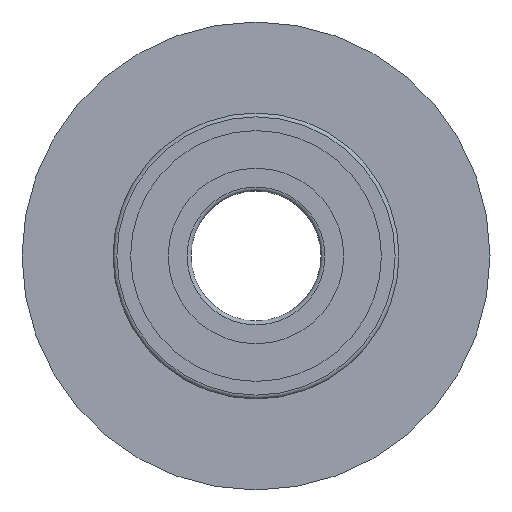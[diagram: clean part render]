
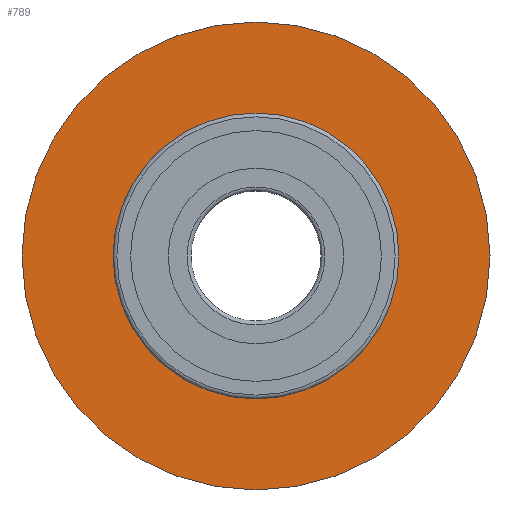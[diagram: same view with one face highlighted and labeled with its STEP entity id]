
A CAD part, left-side view. The second image highlights one B-rep face of the part: STEP entity #789.
In plain terms, the highlighted planar face has unit normal (-1, 0, 0).
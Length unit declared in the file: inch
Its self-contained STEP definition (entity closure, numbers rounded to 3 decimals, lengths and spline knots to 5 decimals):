
#762=CARTESIAN_POINT('',(112.91139,121.47152,0.));
#763=VERTEX_POINT('',#762);
#764=CARTESIAN_POINT('',(112.91139,112.47152,0.));
#765=DIRECTION('',(1.,0.,0.));
#766=DIRECTION('',(0.,1.,0.));
#767=AXIS2_PLACEMENT_3D('',#764,#765,#766);
#768=CIRCLE('',#767,9.);
#769=EDGE_CURVE('',#763,#763,#768,.T.);
#770=ORIENTED_EDGE('',*,*,#769,.F.);
#771=EDGE_LOOP('',(#770));
#772=FACE_OUTER_BOUND('',#771,.T.);
#773=CARTESIAN_POINT('',(112.91139,117.97152,0.));
#774=VERTEX_POINT('',#773);
#775=CARTESIAN_POINT('',(112.91139,112.47152,0.));
#776=DIRECTION('',(1.,0.,0.));
#777=DIRECTION('',(0.,1.,0.));
#778=AXIS2_PLACEMENT_3D('',#775,#776,#777);
#779=CIRCLE('',#778,5.5);
#780=EDGE_CURVE('',#774,#774,#779,.T.);
#781=ORIENTED_EDGE('',*,*,#780,.T.);
#782=EDGE_LOOP('',(#781));
#783=FACE_BOUND('',#782,.T.);
#784=CARTESIAN_POINT('',(112.91139,119.72152,0.));
#785=DIRECTION('',(-1.,0.,0.));
#786=DIRECTION('',(0.,-1.,0.));
#787=AXIS2_PLACEMENT_3D('',#784,#785,#786);
#788=PLANE('',#787);
#789=ADVANCED_FACE('',(#772,#783),#788,.T.);
